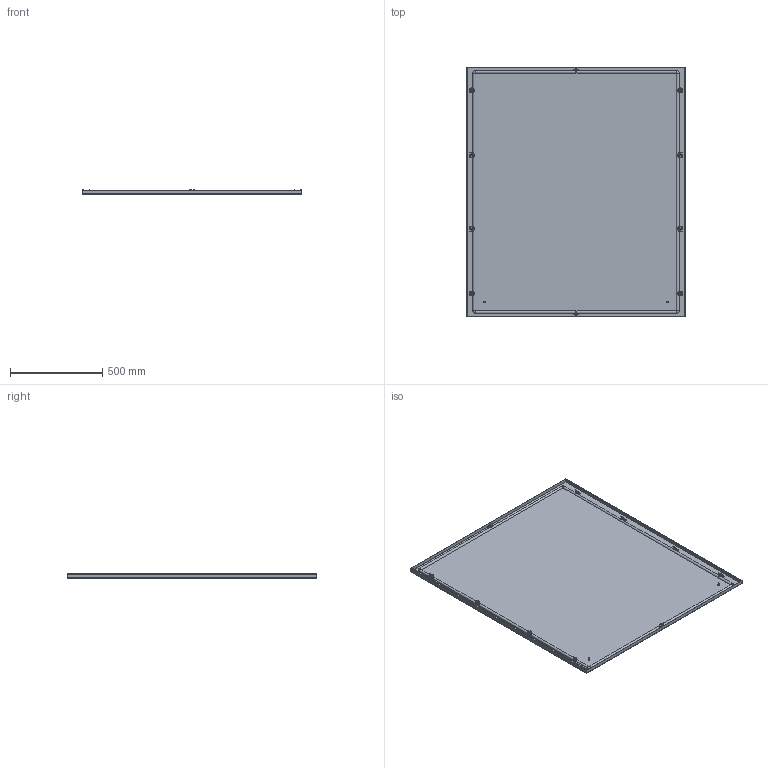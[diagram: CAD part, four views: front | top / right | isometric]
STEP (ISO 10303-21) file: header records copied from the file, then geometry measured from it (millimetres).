
FILE_DESCRIPTION(('Open CASCADE Model'),'2;1');
FILE_NAME('Open CASCADE Shape Model','2025-02-07T16:30:54',('Author'),( 'Open CASCADE'),'Open CASCADE STEP processor 7.8','Open CASCADE 7.8' ,'Unknown');
FILE_SCHEMA(('AUTOMOTIVE_DESIGN { 1 0 10303 214 1 1 1 1 }'));
Length unit declared in the file: millimetre
Products named in the file (10): Compound1; Compound2; Compound3; Solid1; Solid2; Solid3; Solid4; Solid5; Solid6; Solid7
Assembly tree (46 placements, depth 4):
  Compound1
    Compound2
      Compound3
        Solid1
        Solid2  x4
      Solid3
    Solid4  x10
    Solid5  x8
    Solid6  x10
    Solid7  x10
Bounding box: 1194 x 1355 x 23.8 mm (x, y, z)
Volume: 3061404.2 mm3; surface area: 3712588.2 mm2
Topology: 44 solids, 44 shells, 1897 faces, 4610 edges, 2804 vertices
Faces by surface type: plane 1157, cone 384, cylinder 312, torus 34, bspline 10
Full cylindrical faces by diameter (mm): 5 x20, 6 x164, 7.5 x4, 8 x20, 10 x10, 11.57 x10
Entity records: 7881 total; most frequent: CARTESIAN_POINT 1467, DIRECTION 1289, ORIENTED_EDGE 1256, EDGE_CURVE 628, AXIS2_PLACEMENT_3D 440, LINE 409, VECTOR 409, VERTEX_POINT 391
